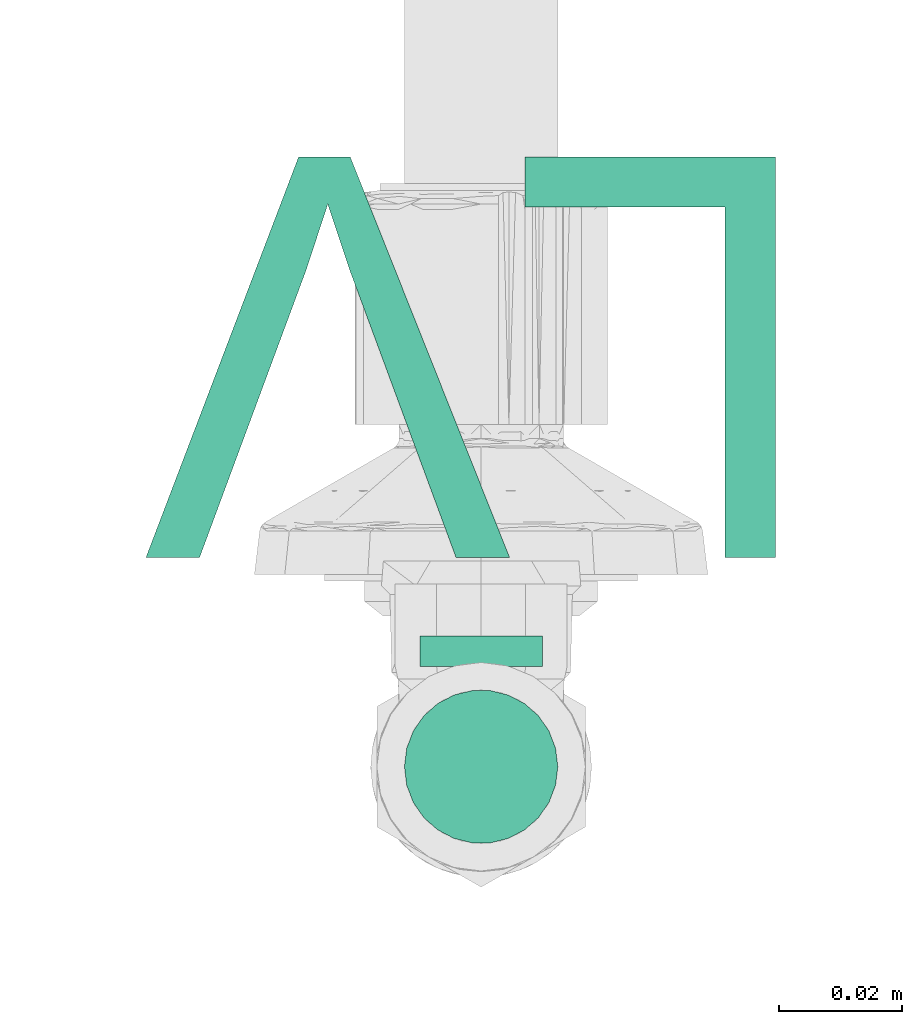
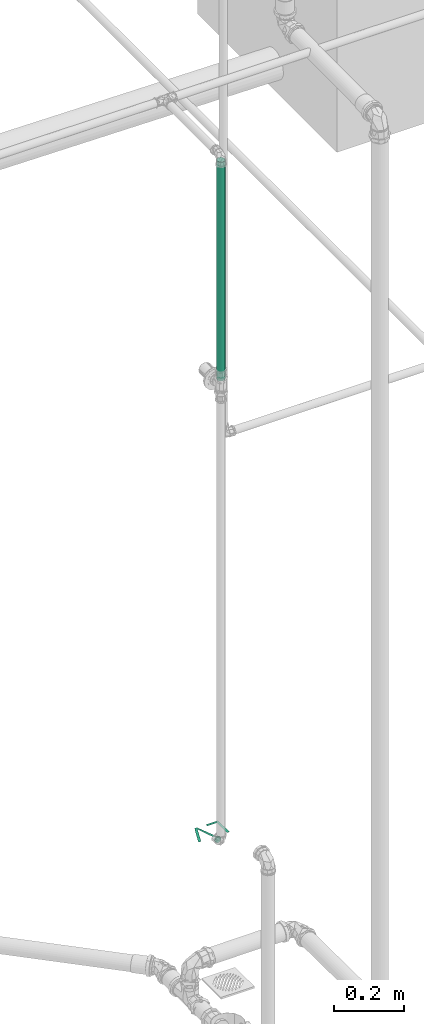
# One storey, part 222 of 589: 1 flow segment, 1 flow terminal.
"""IFC2X3 building model written with IfcOpenShell, lengths in millimetres."""

from ifc_helpers import new_model, entity, si_unit, converted_unit, derived_unit, direction, frame, frame_2d, origin, place, context, subcontext, project, spatial, circle, extrude, face_set, surface_model, source, transform, mapped, material, type_object, type_shapes, element, save


model = new_model("IFC2X3")

# Units and contexts
model_context = context("Model", 3, precision=0.01, world=origin(), true_north=direction((6.123031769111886e-17, 1.0)))
body_context = subcontext(model_context, "Body", "Model", "MODEL_VIEW")
ifc_project = project(units=[si_unit("LENGTHUNIT", "METRE", prefix="MILLI"), si_unit("AREAUNIT", "SQUARE_METRE"), si_unit("VOLUMEUNIT", "CUBIC_METRE"), converted_unit("PLANEANGLEUNIT", "DEGREE", entity("IfcRatioMeasure", 0.017453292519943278), si_unit("PLANEANGLEUNIT", "RADIAN"), dimensions=[0, 0, 0, 0, 0, 0, 0]), si_unit("MASSUNIT", "GRAM", prefix="KILO"), derived_unit("MASSDENSITYUNIT", [(si_unit("MASSUNIT", "GRAM", prefix="KILO"), 1), (si_unit("LENGTHUNIT", "METRE"), -3)]), derived_unit("IONCONCENTRATIONUNIT", [(si_unit("MASSUNIT", "GRAM", prefix="KILO"), 1), (si_unit("LENGTHUNIT", "METRE"), -3)]), derived_unit("MOMENTOFINERTIAUNIT", [(si_unit("LENGTHUNIT", "METRE"), 4)]), si_unit("TIMEUNIT", "SECOND"), si_unit("FREQUENCYUNIT", "HERTZ"), si_unit("THERMODYNAMICTEMPERATUREUNIT", "DEGREE_CELSIUS"), derived_unit("THERMALTRANSMITTANCEUNIT", [(si_unit("MASSUNIT", "GRAM", prefix="KILO"), 1), (si_unit("THERMODYNAMICTEMPERATUREUNIT", "KELVIN"), -1), (si_unit("TIMEUNIT", "SECOND"), -3)]), derived_unit("THERMALCONDUCTANCEUNIT", [(si_unit("MASSUNIT", "GRAM", prefix="KILO"), 1), (si_unit("THERMODYNAMICTEMPERATUREUNIT", "KELVIN"), -1), (si_unit("TIMEUNIT", "SECOND"), -3), (si_unit("LENGTHUNIT", "METRE"), 1)]), derived_unit("VOLUMETRICFLOWRATEUNIT", [(si_unit("LENGTHUNIT", "METRE"), 3), (si_unit("TIMEUNIT", "SECOND"), -1)]), derived_unit("MASSFLOWRATEUNIT", [(si_unit("MASSUNIT", "GRAM", prefix="KILO"), 1), (si_unit("TIMEUNIT", "SECOND"), -1)]), derived_unit("ROTATIONALFREQUENCYUNIT", [(si_unit("TIMEUNIT", "SECOND"), -1)]), si_unit("ELECTRICCURRENTUNIT", "AMPERE"), si_unit("ELECTRICVOLTAGEUNIT", "VOLT"), si_unit("POWERUNIT", "WATT"), si_unit("FORCEUNIT", "NEWTON", prefix="KILO"), si_unit("ILLUMINANCEUNIT", "LUX"), si_unit("LUMINOUSFLUXUNIT", "LUMEN"), si_unit("LUMINOUSINTENSITYUNIT", "CANDELA"), derived_unit("USERDEFINED", [(si_unit("MASSUNIT", "GRAM", prefix="KILO"), -1), (si_unit("LENGTHUNIT", "METRE"), -2), (si_unit("TIMEUNIT", "SECOND"), 3), (si_unit("LUMINOUSFLUXUNIT", "LUMEN"), 1)]), derived_unit("USERDEFINED", [(si_unit("MASSUNIT", "GRAM", prefix="KILO"), 1), (si_unit("TIMEUNIT", "SECOND"), -3), (si_unit("LENGTHUNIT", "METRE"), 3), (si_unit("ELECTRICCURRENTUNIT", "AMPERE"), -2)]), derived_unit("SOUNDPOWERUNIT", [(si_unit("MASSUNIT", "GRAM", prefix="KILO"), 1), (si_unit("TIMEUNIT", "SECOND"), -3), (si_unit("LENGTHUNIT", "METRE"), 2)]), derived_unit("SOUNDPRESSUREUNIT", [(si_unit("MASSUNIT", "GRAM", prefix="KILO"), 1), (si_unit("LENGTHUNIT", "METRE"), -1), (si_unit("TIMEUNIT", "SECOND"), -2)]), derived_unit("LINEARVELOCITYUNIT", [(si_unit("LENGTHUNIT", "METRE"), 1), (si_unit("TIMEUNIT", "SECOND"), -1)]), si_unit("PRESSUREUNIT", "PASCAL"), derived_unit("USERDEFINED", [(si_unit("MASSUNIT", "GRAM", prefix="KILO"), 1), (si_unit("LENGTHUNIT", "METRE"), -2), (si_unit("TIMEUNIT", "SECOND"), -2)]), derived_unit("LINEARFORCEUNIT", [(si_unit("MASSUNIT", "GRAM", prefix="KILO"), 1), (si_unit("TIMEUNIT", "SECOND"), -2)]), derived_unit("PLANARFORCEUNIT", [(si_unit("MASSUNIT", "GRAM", prefix="KILO"), 1), (si_unit("LENGTHUNIT", "METRE"), -1), (si_unit("TIMEUNIT", "SECOND"), -2)]), derived_unit("SPECIFICHEATCAPACITYUNIT", [(si_unit("THERMODYNAMICTEMPERATUREUNIT", "KELVIN"), -1), (si_unit("LENGTHUNIT", "METRE"), 2), (si_unit("TIMEUNIT", "SECOND"), -2)]), derived_unit("HEATINGVALUEUNIT", [(si_unit("LENGTHUNIT", "METRE"), 2), (si_unit("TIMEUNIT", "SECOND"), -2)]), derived_unit("VAPORPERMEABILITYUNIT", [(si_unit("LENGTHUNIT", "METRE"), -1), (si_unit("TIMEUNIT", "SECOND"), 1)]), derived_unit("DYNAMICVISCOSITYUNIT", [(si_unit("MASSUNIT", "GRAM", prefix="KILO"), 1), (si_unit("TIMEUNIT", "SECOND"), -1), (si_unit("LENGTHUNIT", "METRE"), -1)]), derived_unit("THERMALEXPANSIONCOEFFICIENTUNIT", [(si_unit("THERMODYNAMICTEMPERATUREUNIT", "KELVIN"), -1)]), derived_unit("MODULUSOFELASTICITYUNIT", [(si_unit("MASSUNIT", "GRAM", prefix="KILO"), 1), (si_unit("LENGTHUNIT", "METRE"), -1), (si_unit("TIMEUNIT", "SECOND"), -2)]), derived_unit("ISOTHERMALMOISTURECAPACITYUNIT", [(si_unit("LENGTHUNIT", "METRE"), 3), (si_unit("MASSUNIT", "GRAM", prefix="KILO"), -1)]), derived_unit("MOISTUREDIFFUSIVITYUNIT", [(si_unit("TIMEUNIT", "SECOND"), -1), (si_unit("LENGTHUNIT", "METRE"), 2)])], contexts=[model_context])

# Site, building, storey
site_placement = place(None, origin())
site = spatial("IfcSite", under=ifc_project, at=site_placement, Name="Default", CompositionType="ELEMENT")
building_placement = place(site_placement, origin())
building = spatial("IfcBuilding", under=site, at=building_placement, CompositionType="ELEMENT")
storey_placement = place(building_placement, frame((0.0, 0.0, 100.0)))
storey = spatial("IfcBuildingStorey", under=building, at=storey_placement, Name="TÉRREO", CompositionType="ELEMENT", Elevation=100.0)

# Flow segment
pipe_segment_type = type_object("IfcPipeSegmentType", Name="Tipos de tubos:PVC Marrom Soldável", PredefinedType="NOTDEFINED")
flow_segment_placement = place(storey_placement, origin())
element("IfcFlowSegment", 1, at=flow_segment_placement, inside=storey, type_object=pipe_segment_type, Name="Tipos de tubos:PVC Marrom Soldável", ObjectType="Tipos de tubos:PVC Marrom Soldável", context=body_context, shape_type="SweptSolid", body=[
    extrude(circle(Radius=12.5, at=frame_2d((0.0, 2.707167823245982e-13), x_axis=(1.0, 0.0))), frame((13257.420932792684, -2080.0895013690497, 2220.0), z_axis=(0.0, 0.0, 1.0), x_axis=(-1.0, 0.0, 0.0)), (0.0, 0.0, 1.0), 764.600000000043),
])

# Flow terminal
ifc_material = material(Name="<Unnamed>")
distribution_element_type = type_object("IfcDistributionElementType", Name="Hidráulica_Ponto de Utilização_Uso Provável_Rodrigo MEP:Lavatório LV (Peso 0,3) 60cm do Piso", material=ifc_material)
shared_shape = source(origin(), body_context, "Body", "SurfaceModel", [
    surface_model("IfcFaceBasedSurfaceModel", [(0.0, 0.0, 11.595272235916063), (40.81037599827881, 0.0, 11.595272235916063), (40.81037599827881, 8.162075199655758, 11.595272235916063), (8.162075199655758, 8.162075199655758, 11.595272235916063), (8.162075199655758, 65.2966015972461, 11.595272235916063), (0.0, 65.2966015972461, 11.595272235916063), (69.281989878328, 0.0, 11.595272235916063), (77.71507148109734, 0.0, 11.595272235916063), (102.59983590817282, 65.2966015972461, 11.595272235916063), (93.86386479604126, 65.2966015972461, 11.595272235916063), (76.4238056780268, 18.253078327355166, 11.595272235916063), (72.94854709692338, 7.651945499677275, 11.595272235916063), (69.42546385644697, 18.253078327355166, 11.595272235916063), (52.03322939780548, 65.2966015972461, 11.595272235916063), (43.29725828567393, 65.2966015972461, 11.595272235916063), (37.95219179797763, 78.06704158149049, 11.595272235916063), (38.292933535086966, 78.06704158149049, 14.18346268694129), (39.291937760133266, 78.06704158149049, 16.595272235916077), (40.88112398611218, 78.06704158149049, 18.666340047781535), (42.95219179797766, 78.06704158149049, 20.255526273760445), (45.36400134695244, 78.06704158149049, 21.254530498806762), (47.952191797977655, 78.06704158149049, 21.59527223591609), (50.54038224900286, 78.06704158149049, 21.254530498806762), (52.95219179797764, 78.06704158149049, 20.255526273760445), (55.023259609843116, 78.06704158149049, 18.666340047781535), (56.61244583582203, 78.06704158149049, 16.595272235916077), (57.61145006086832, 78.06704158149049, 14.18346268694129), (57.95219179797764, 78.06704158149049, 11.595272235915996), (57.6114500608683, 78.06704158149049, 9.007081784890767), (56.612445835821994, 78.06704158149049, 6.595272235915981), (55.02325960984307, 78.06704158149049, 4.524204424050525), (52.95219179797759, 78.06704158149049, 2.9350181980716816), (50.540382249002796, 78.06704158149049, 1.936013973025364), (47.95219179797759, 78.06704158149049, 1.5952722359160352), (45.36400134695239, 78.06704158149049, 1.936013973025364), (42.952191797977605, 78.06704158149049, 2.9350181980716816), (40.88112398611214, 78.06704158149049, 4.524204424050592), (39.29193776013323, 78.06704158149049, 6.595272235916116), (38.292933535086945, 78.06704158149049, 9.007081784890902), (37.95219179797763, 83.06704158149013, 11.595272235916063), (38.292933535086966, 83.06704158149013, 14.18346268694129), (39.291937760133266, 83.06704158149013, 16.595272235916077), (40.88112398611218, 83.06704158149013, 18.666340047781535), (42.95219179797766, 83.06704158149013, 20.255526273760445), (45.36400134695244, 83.06704158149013, 21.254530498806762), (47.952191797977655, 83.06704158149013, 21.59527223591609), (50.54038224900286, 83.06704158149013, 21.254530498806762), (52.95219179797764, 83.06704158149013, 20.255526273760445), (55.023259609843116, 83.06704158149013, 18.666340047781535), (56.61244583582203, 83.06704158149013, 16.595272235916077), (57.61145006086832, 83.06704158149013, 14.18346268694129), (57.95219179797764, 83.06704158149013, 11.595272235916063), (57.6114500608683, 83.06704158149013, 9.007081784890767), (56.612445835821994, 83.06704158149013, 6.595272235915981), (55.02325960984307, 83.06704158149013, 4.524204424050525), (52.95219179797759, 83.06704158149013, 2.9350181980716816), (50.540382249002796, 83.06704158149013, 1.936013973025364), (47.95219179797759, 83.06704158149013, 1.5952722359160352), (45.36400134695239, 83.06704158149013, 1.936013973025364), (42.952191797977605, 83.06704158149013, 2.9350181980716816), (40.88112398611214, 83.06704158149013, 4.524204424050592), (39.29193776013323, 83.06704158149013, 6.595272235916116), (38.292933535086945, 83.06704158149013, 9.007081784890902)], [face_set([[[0, 1, 2, 3, 4, 5]], [[6, 7, 8, 9, 10, 11, 12, 13, 14]]]), face_set([[[15, 16, 17, 18, 19, 20, 21, 22, 23, 24, 25, 26, 27, 28, 29, 30, 31, 32, 33, 34, 35, 36, 37, 38]], [[39, 40, 41, 42, 43, 44, 45, 46, 47, 48, 49, 50, 51, 52, 53, 54, 55, 56, 57, 58, 59, 60, 61, 62]], [[39, 62, 38, 15]], [[62, 61, 37, 38]], [[60, 59, 35, 36]], [[61, 60, 36, 37]], [[59, 58, 34, 35]], [[33, 34, 58, 57]], [[57, 56, 32, 33]], [[56, 55, 31, 32]], [[54, 53, 29, 30]], [[55, 54, 30, 31]], [[53, 52, 28, 29]], [[27, 28, 52, 51]], [[51, 50, 26, 27]], [[50, 49, 25, 26]], [[48, 47, 23, 24]], [[49, 48, 24, 25]], [[47, 46, 22, 23]], [[21, 22, 46, 45]], [[45, 44, 20, 21]], [[44, 43, 19, 20]], [[42, 41, 17, 18]], [[43, 42, 18, 19]], [[41, 40, 16, 17]], [[15, 16, 40, 39]]])]),
])
type_shapes(distribution_element_type, [shared_shape])
flow_terminal_placement = place(storey_placement, frame((13305.373124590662, -1980.72245978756, 588.4047277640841), z_axis=(0.0, 0.0, 1.0), x_axis=(-1.0, 0.0, 0.0)))
element("IfcFlowTerminal", 2, at=flow_terminal_placement, inside=storey, type_object=distribution_element_type, material=ifc_material, Name="Hidráulica_Ponto de Utilização_Uso Provável_Rodrigo MEP:Lavatório LV (Peso 0,3) 60cm do Piso", ObjectType="Hidráulica_Ponto de Utilização_Uso Provável_Rodrigo MEP:Lavatório LV (Peso 0,3) 60cm do Piso", context=body_context, shape_type="MappedRepresentation", body=[
    mapped(shared_shape, transform((0.0, 0.0, 0.0), scale=1.0)),
])

save(model, "model.ifc")
